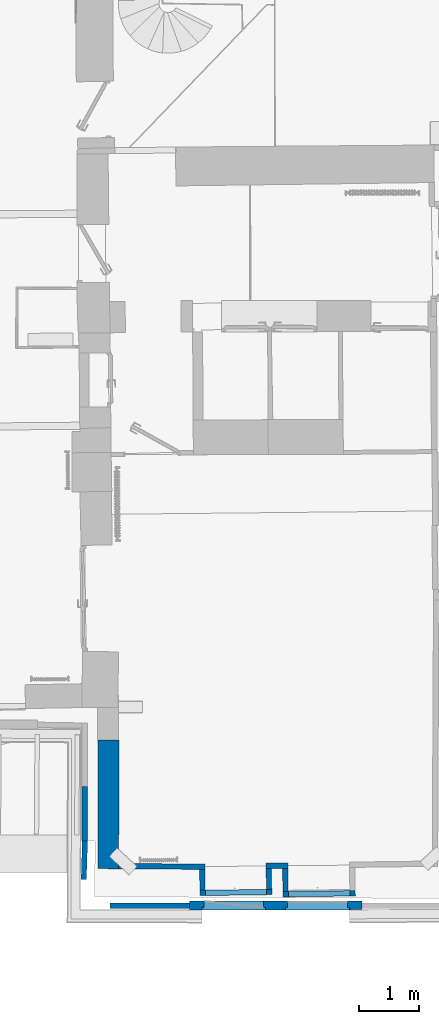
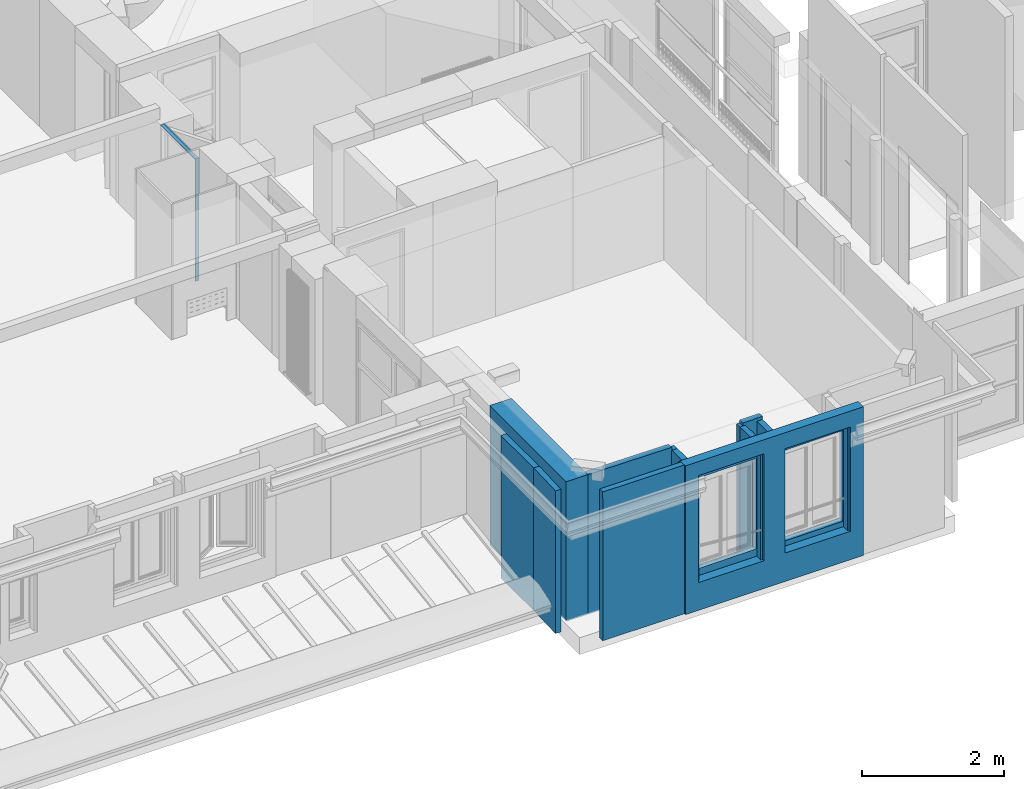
# One storey, part 13 of 72: 13 walls, 5 openings.
"""IFC2X3 building model written with IfcOpenShell, lengths in centimetres."""

from ifc_helpers import new_model, entity, si_unit, converted_unit, direction, frame, origin, origin_with_axes, origin_2d_with_axis, place, context, subcontext, project, spatial, polyline, rectangle, outline, extrude, clip, bounded_halfspace, faceted_brep, shape, material, layer, layer_set, layer_usage, type_object, element, save


model = new_model("IFC2X3")

# Units and contexts
model_context = context("Model", 3, precision=0.0001, world=origin(), true_north=direction((0.225632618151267, 0.974212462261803, 0.0)))
body_context = subcontext(model_context, "Body", "Model", "MODEL_VIEW")
footprint_context = subcontext(model_context, "FootPrint", "Model", "MODEL_VIEW")
profile_context = subcontext(model_context, "Profile", "Model", "MODEL_VIEW")
ifc_project = project(units=[si_unit("LENGTHUNIT", "METRE", prefix="CENTI"), si_unit("AREAUNIT", "SQUARE_METRE", prefix="CENTI"), si_unit("VOLUMEUNIT", "CUBIC_METRE", prefix="CENTI"), converted_unit("PLANEANGLEUNIT", "DEGREE", entity("IfcRatioMeasure", 0.0174532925), si_unit("PLANEANGLEUNIT", "RADIAN"), dimensions=[0, 0, 0, 0, 0, 0, 0])], contexts=[model_context])

# Site, building, storey
site_placement = place(None, origin_with_axes())
site = spatial("IfcSite", under=ifc_project, at=site_placement, Name="Default Site", CompositionType="ELEMENT")
building_placement = place(site_placement, origin_with_axes())
building = spatial("IfcBuilding", under=site, at=building_placement, Name="Default Building", CompositionType="ELEMENT")
storey_placement = place(building_placement, frame((0.0, 0.0, 853.910374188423), z_axis=(0.0, 0.0, 1.0), x_axis=(1.0, 0.0, 0.0)))
storey = spatial("IfcBuildingStorey", under=building, at=storey_placement, Name="Niveau 2", CompositionType="ELEMENT", Elevation=853.910374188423)

# Walls
ifc_material = material(Name="<aucun>")
ifc_layer_1 = layer(ifc_material, 9.0)
ifc_layer_set_1 = layer_set([ifc_layer_1], Name="default")
ifc_layer_usage_1 = layer_usage(ifc_layer_set_1, "AXIS2", "POSITIVE", -4.5)
wall_type_1 = type_object("IfcWallType", Name="default 90", PredefinedType="NOTDEFINED", material=ifc_layer_set_1)
wall_1_placement = place(storey_placement, frame((583.820683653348, -1028.09470280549, -1.95399252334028e-11), z_axis=(0.0, 0.0, 1.0), x_axis=(-0.0132624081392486, 0.999912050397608, 0.0)))
element("IfcWallStandardCase", 1, at=wall_1_placement, inside=storey, type_object=wall_type_1, material=ifc_layer_usage_1, Name="Enveloppe 466763", context=body_context, shape_type="SweptSolid", body=[
    extrude(rectangle(XDim=9.00000000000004, YDim=38.9371059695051, at=origin_2d_with_axis()), frame((28.4685529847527, 0.0, 1.95399252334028e-11), z_axis=(0.0, 0.0, 1.0), x_axis=(0.0, -1.0, 0.0)), (0.0, 0.0, 1.0), 234.999999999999),
])
ifc_layer_usage_2 = layer_usage(ifc_layer_set_1, "AXIS2", "POSITIVE", -4.5)
wall_2_placement = place(storey_placement, frame((555.758841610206, -976.025184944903, 1.4210854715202e-12), z_axis=(0.0, 0.0, 1.0), x_axis=(0.999912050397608, 0.0132624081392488, 0.0)))
element("IfcWallStandardCase", 2, at=wall_2_placement, inside=storey, type_object=wall_type_1, material=ifc_layer_usage_2, Name="Enveloppe 466764", context=body_context, shape_type="Clipping", body=[
    clip(clip(extrude(rectangle(XDim=36.8976143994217, YDim=9.00000000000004, at=origin_2d_with_axis()), frame((13.710964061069, 1.77635683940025e-13, 3.5527136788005e-13), z_axis=(0.0, 0.0, 1.0), x_axis=(1.0, 2.98892854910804e-15, 0.0)), (0.0, 0.0, 1.0), 240.0), bounded_halfspace(frame((32.1597712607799, 4.49999999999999, 234.999999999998), z_axis=(0.0, 0.0, 1.0), x_axis=(0.0, -1.0, 0.0)), True, frame((32.1597712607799, 4.49999999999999, 234.999999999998), z_axis=(0.0, 0.0, 1.0), x_axis=(1.0, 0.0, 0.0)), polyline([(-0.290964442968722, -8.99999999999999), (-0.290964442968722, 0.0), (8.88178419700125e-14, 0.0), (-8.88178419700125e-14, -8.99999999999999), (-0.290964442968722, -8.99999999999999)]))), bounded_halfspace(frame((-4.73784313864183, -4.49999999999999, 234.999999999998), z_axis=(0.0, 0.0, -1.0), x_axis=(1.0, 5.48172618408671e-16, 0.0)), True, frame((-4.73784313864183, -4.49999999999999, 234.999999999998), z_axis=(0.0, 0.0, 1.0), x_axis=(1.0, 0.0, 0.0)), polyline([(-8.88178419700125e-14, 0.0), (4.73784313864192, 1.77635683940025e-13), (4.73784313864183, 8.99999999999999), (-1.77635683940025e-13, 8.99999999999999), (-8.88178419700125e-14, 0.0)]))),
])

# Wall, opening
ifc_layer_usage_3 = layer_usage(ifc_layer_set_1, "AXIS2", "POSITIVE", -4.5)
wall_3_placement = place(storey_placement, frame((583.761002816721, -1023.5950985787, 1.4210854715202e-12), z_axis=(0.0, 0.0, 1.0), x_axis=(0.999912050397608, 0.0132624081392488, 0.0)))
wall_3 = element("IfcWallStandardCase", 3, at=wall_3_placement, inside=storey, type_object=wall_type_1, material=ifc_layer_usage_3, Name="Enveloppe 466655", context=body_context, shape_type="Clipping", body=[
    clip(clip(extrude(rectangle(XDim=121.302750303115, YDim=9.00000000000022, at=origin_2d_with_axis()), frame((56.1513751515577, 0.0, 0.0), z_axis=(0.0, 0.0, 1.0), x_axis=(1.0, -2.46504205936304e-15, 0.0)), (0.0, 0.0, 1.0), 240.000000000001), bounded_halfspace(frame((-4.49999999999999, -4.49999999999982, 234.999999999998), z_axis=(0.0, 0.0, -1.0), x_axis=(1.0, -2.61943244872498e-16, 0.0)), True, frame((-4.49999999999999, -4.49999999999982, 234.999999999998), z_axis=(0.0, 0.0, 1.0), x_axis=(1.0, 0.0, 0.0)), polyline([(0.0, 1.77635683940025e-13), (4.49999999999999, 1.77635683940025e-13), (4.49999999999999, 9.00000000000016), (-1.77635683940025e-13, 9.00000000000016), (0.0, 1.77635683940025e-13)]))), bounded_halfspace(frame((116.802750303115, 4.49999999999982, 234.999999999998), z_axis=(0.0, 0.0, -1.0), x_axis=(-1.0, 3.04773567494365e-14, 0.0)), True, frame((116.802750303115, 4.49999999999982, 234.999999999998), z_axis=(0.0, 0.0, 1.0), x_axis=(1.0, 0.0, 0.0)), polyline([(-4.49999999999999, -8.99999999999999), (2.66453525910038e-13, -8.99999999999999), (0.0, 0.0), (-4.49999999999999, 0.0), (-4.49999999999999, -8.99999999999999)]))),
])
opening_1_placement = place(wall_3_placement, frame((4.54272500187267, -2.27373675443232e-13, 51.9999999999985), z_axis=(0.0, 0.0, 1.0), x_axis=(1.0, -4.20150025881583e-15, 0.0)))
cartesian_point_1 = entity("IfcCartesianPoint", [0.0, 1.77635683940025e-13, 155.6])
cartesian_point_2 = entity("IfcCartesianPoint", [103.260025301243, 4.49999999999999])
element("IfcOpeningElement", 4, at=opening_1_placement, cuts=wall_3, Name="4294966445_11", ObjectType="Opening", shapes=[
    shape(body_context, "Body", "SweptSolid", [extrude(outline(polyline([(0.0, 155.6), (0.0, -1.77635683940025e-13), (103.260025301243, -1.77635683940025e-13), (103.260025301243, 155.6), (0.0, 155.6)])), frame((0.0, 14.5, 0.0), z_axis=(0.0, -1.0, 0.0), x_axis=(1.0, 0.0, 0.0)), (0.0, 0.0, 1.0), 29.0)]),
    shape(profile_context, "Profile", "GeometricCurveSet", [entity("IfcGeometricCurveSet", [entity("IfcPolyline", [cartesian_point_1, entity("IfcCartesianPoint", [0.0, 1.77635683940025e-13, -1.77635683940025e-13]), entity("IfcCartesianPoint", [103.260025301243, 1.77635683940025e-13, -1.77635683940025e-13]), entity("IfcCartesianPoint", [103.260025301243, 1.77635683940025e-13, 155.6]), cartesian_point_1])])]),
    shape(footprint_context, "FootPrint", "GeometricCurveSet", [entity("IfcGeometricCurveSet", [entity("IfcPolyline", [cartesian_point_2, entity("IfcCartesianPoint", [0.0, 4.50000000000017]), entity("IfcCartesianPoint", [0.0, -4.49999999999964]), entity("IfcCartesianPoint", [103.260025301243, -4.49999999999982]), cartesian_point_2])])]),
])

# Walls
ifc_layer_usage_4 = layer_usage(ifc_layer_set_1, "AXIS2", "POSITIVE", -4.5)
wall_4_placement = place(storey_placement, frame((247.151456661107, -934.52190212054, -1.95399252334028e-11), z_axis=(0.0, 0.0, 1.0), x_axis=(-0.00483921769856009, 0.999988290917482, 0.0)))
element("IfcWallStandardCase", 5, at=wall_4_placement, inside=storey, type_object=wall_type_1, material=ifc_layer_usage_4, Name="Enveloppe 462048", context=body_context, shape_type="SweptSolid", body=[
    extrude(outline(polyline([(91.8481234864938, 4.49999999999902), (0.00368728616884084, 4.50178599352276), (-0.306669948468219, -4.49315572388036), (91.8481234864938, -4.5000000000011), (91.8481234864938, 4.49999999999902)])), frame((0.0, 0.0, 2.00728322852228e-11), z_axis=(0.0, 0.0, 1.0), x_axis=(1.0, 0.0, 0.0)), (0.0, 0.0, 1.0), 244.999999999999),
])
ifc_layer_usage_5 = layer_usage(ifc_layer_set_1, "AXIS2", "POSITIVE", -4.5)
wall_5_placement = place(storey_placement, frame((245.240282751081, -998.993087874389, -1.95399252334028e-11), z_axis=(0.0, 0.0, 1.0), x_axis=(0.0296472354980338, 0.999560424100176, 0.0)))
element("IfcWallStandardCase", 6, at=wall_5_placement, inside=storey, type_object=wall_type_1, material=ifc_layer_usage_5, Name="Enveloppe 462083", context=body_context, shape_type="SweptSolid", body=[
    extrude(rectangle(XDim=64.3479611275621, YDim=8.99999999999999, at=origin_2d_with_axis()), frame((32.1739805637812, 3.10862446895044e-13, 2.00728322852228e-11), z_axis=(0.0, 0.0, 1.0), x_axis=(1.0, 9.15240105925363e-15, 0.0)), (0.0, 0.0, 1.0), 244.999999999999),
])
ifc_layer_usage_6 = layer_usage(ifc_layer_set_1, "AXIS2", "POSITIVE", -4.5)
wall_6_placement = place(storey_placement, frame((289.501451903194, -1043.06086177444, -1.95399252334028e-11), z_axis=(0.0, 0.0, 1.0), x_axis=(0.99999978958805, 0.000648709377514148, 0.0)))
element("IfcWallStandardCase", 7, at=wall_6_placement, inside=storey, type_object=wall_type_1, material=ifc_layer_usage_6, Name="Enveloppe 462309", context=body_context, shape_type="Clipping", body=[
    clip(extrude(rectangle(XDim=8.99999999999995, YDim=132.764789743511, at=origin_2d_with_axis()), frame((66.3823949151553, 3.3457461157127e-05, 1.98951966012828e-11), z_axis=(0.0, 0.0, 1.0), x_axis=(-9.86873343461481e-15, 1.0, 0.0)), (0.0, 0.0, 1.0), 255.508614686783), bounded_halfspace(frame((4.44089209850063e-14, -4.49999999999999, 245.000000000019), z_axis=(0.0, 0.0, 1.0), x_axis=(-1.0842021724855e-19, 1.0, 0.0)), True, frame((4.44089209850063e-14, -4.49999999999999, 245.000000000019), z_axis=(0.0, 0.0, 1.0), x_axis=(1.0, 0.0, 0.0)), polyline([(0.0, 0.0), (0.00315086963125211, 8.99999999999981), (0.103150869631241, 8.99999999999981), (0.103150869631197, 0.0), (0.0, 0.0)]))),
])

# Wall, opening
ifc_layer_usage_7 = layer_usage(ifc_layer_set_1, "AXIS2", "POSITIVE", -4.5)
wall_7_placement = place(storey_placement, frame((429.795336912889, -1021.63182955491, 1.4210854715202e-12), z_axis=(0.0, 0.0, 1.0), x_axis=(0.999912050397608, 0.0132624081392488, 0.0)))
wall_7 = element("IfcWallStandardCase", 8, at=wall_7_placement, inside=storey, type_object=wall_type_1, material=ifc_layer_usage_7, Name="Enveloppe 467083", context=body_context, shape_type="Clipping", body=[
    clip(clip(clip(clip(clip(clip(extrude(rectangle(XDim=130.819437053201, YDim=8.99999999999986, at=origin_2d_with_axis()), frame((65.4097185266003, -5.32907051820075e-13, 0.0), z_axis=(0.0, 0.0, 1.0), x_axis=(1.0, -5.5875443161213e-15, 0.0)), (0.0, 0.0, 1.0), 240.000000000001), bounded_halfspace(frame((0.0, 4.49999999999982, 234.999999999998), z_axis=(0.0, 0.0, 1.0), x_axis=(1.0, 1.36696209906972e-15, 0.0)), True, frame((0.0, 4.49999999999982, 234.999999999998), z_axis=(0.0, 0.0, 1.0), x_axis=(1.0, 0.0, 0.0)), polyline([(0.0, -8.99999999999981), (0.0, -1.77635683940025e-13), (10.2363472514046, 1.77635683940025e-13), (10.2363472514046, -8.99999999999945), (0.0, -8.99999999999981)]))), bounded_halfspace(frame((119.370194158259, 3.64508552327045, 234.007564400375), z_axis=(0.0, 0.0, -1.0), x_axis=(0.0889784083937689, 0.996033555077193, 0.0)), True, frame((119.370194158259, 3.64508552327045, 234.007564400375), z_axis=(0.0, 0.0, 1.0), x_axis=(1.0, 0.0, 0.0)), polyline([(-2.08729956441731, 0.18125199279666), (8.88178419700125e-14, 0.0), (0.0145450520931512, 0.162818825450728), (-2.08729956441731, 0.18125199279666)]))), bounded_halfspace(frame((122.519967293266, 3.7804084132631, 234.007564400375), z_axis=(0.0, 0.0, -1.0), x_axis=(-0.999961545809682, 0.00876965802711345, 0.0)), True, frame((122.519967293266, 3.7804084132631, 234.007564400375), z_axis=(0.0, 0.0, 1.0), x_axis=(1.0, 0.0, 0.0)), polyline([(-3.14977313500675, -0.135322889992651), (3.08256948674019, -0.676512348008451), (3.13892442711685, -0.027528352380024), (-3.13522808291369, 0.0274959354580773), (-3.14977313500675, -0.135322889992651)]))), bounded_halfspace(frame((119.021062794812, -0.2631272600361, 234.007564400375), z_axis=(0.0, 0.0, -1.0), x_axis=(0.0889784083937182, 0.996033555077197, 0.0)), True, frame((119.021062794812, -0.2631272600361, 234.007564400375), z_axis=(0.0, 0.0, 1.0), x_axis=(1.0, 0.0, 0.0)), polyline([(-6.16503975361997, 0.0589188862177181), (8.88178419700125e-14, 0.0), (0.349131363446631, 3.90821278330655), (-1.73816820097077, 4.08946477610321), (-6.12935414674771, 4.12797545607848), (-6.16503975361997, 0.0589188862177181)]))), bounded_halfspace(frame((113.504657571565, 3.92319714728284, 234.007564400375), z_axis=(0.0, 0.0, -1.0), x_axis=(-0.0761609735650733, -0.997095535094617, 0.0)), True, frame((113.504657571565, 3.92319714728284, 234.007564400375), z_axis=(0.0, 0.0, 1.0), x_axis=(1.0, 0.0, 0.0)), polyline([(-0.00486419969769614, -0.0636818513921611), (3.77823702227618, -0.0968596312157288), (3.13162043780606, -0.0407102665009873), (0.0, 0.0), (-0.00486419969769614, -0.0636818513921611)]))), bounded_halfspace(frame((130.819437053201, 4.4999999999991, 234.999999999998), z_axis=(0.0, 0.0, -1.0), x_axis=(-1.0, 0.0, 0.0)), True, frame((130.819437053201, 4.4999999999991, 234.999999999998), z_axis=(0.0, 0.0, 1.0), x_axis=(1.0, 0.0, 0.0)), polyline([(-4.49999999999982, -8.99999999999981), (0.0, -8.99999999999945), (0.0, 0.0), (-4.49999999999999, 0.0), (-4.49999999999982, -8.99999999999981)]))),
])
opening_2_placement = place(wall_7_placement, frame((19.2363472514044, 0.0, 51.9999999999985), z_axis=(0.0, 0.0, 1.0), x_axis=(1.0, -2.96464242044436e-15, 0.0)))
cartesian_point_3 = entity("IfcCartesianPoint", [0.0, 0.0, 155.600902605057])
cartesian_point_4 = entity("IfcCartesianPoint", [102.583089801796, 4.49999999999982])
element("IfcOpeningElement", 9, at=opening_2_placement, cuts=wall_7, Name="4294966440_11", ObjectType="Opening", shapes=[
    shape(body_context, "Body", "SweptSolid", [extrude(outline(polyline([(8.88178419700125e-14, 155.600902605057), (8.88178419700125e-14, -1.77635683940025e-13), (102.583089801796, -1.77635683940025e-13), (102.583089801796, 155.600902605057), (8.88178419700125e-14, 155.600902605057)])), frame((0.0, 14.5, 0.0), z_axis=(0.0, -1.0, 0.0), x_axis=(1.0, 0.0, 0.0)), (0.0, 0.0, 1.0), 29.0)]),
    shape(profile_context, "Profile", "GeometricCurveSet", [entity("IfcGeometricCurveSet", [entity("IfcPolyline", [cartesian_point_3, entity("IfcCartesianPoint", [0.0, 0.0, -1.77635683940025e-13]), entity("IfcCartesianPoint", [102.583089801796, -1.77635683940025e-13, -1.77635683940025e-13]), entity("IfcCartesianPoint", [102.583089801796, -1.77635683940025e-13, 155.600902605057]), cartesian_point_3])])]),
    shape(footprint_context, "FootPrint", "GeometricCurveSet", [entity("IfcGeometricCurveSet", [entity("IfcPolyline", [cartesian_point_4, entity("IfcCartesianPoint", [8.88178419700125e-14, 4.49999999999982]), entity("IfcCartesianPoint", [8.88178419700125e-14, -4.50000000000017]), entity("IfcCartesianPoint", [102.583089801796, -4.49999999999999]), cartesian_point_4])])]),
])

# Walls
ifc_layer_usage_8 = layer_usage(ifc_layer_set_1, "AXIS2", "POSITIVE", -4.5)
wall_8_placement = place(storey_placement, frame((444.470707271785, -1016.93678587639, -1.95399252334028e-11), z_axis=(0.0, 0.0, 1.0), x_axis=(-0.0132624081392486, 0.999912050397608, 0.0)))
element("IfcWallStandardCase", 10, at=wall_8_placement, inside=storey, type_object=wall_type_1, material=ifc_layer_usage_8, Name="Enveloppe 467191", context=body_context, shape_type="SweptSolid", body=[
    extrude(outline(polyline([(35.045232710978, 4.4999999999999), (0.0, 4.49999999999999), (0.0, -4.50000000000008), (34.8643733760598, -4.50000000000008), (35.045232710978, 4.4999999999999)])), frame((0.0, 0.0, 1.97175609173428e-11), z_axis=(0.0, 0.0, 1.0), x_axis=(1.0, 0.0, 0.0)), (0.0, 0.0, 1.0), 234.999999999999),
])
ifc_layer_usage_9 = layer_usage(ifc_layer_set_1, "AXIS2", "POSITIVE", -4.5)
wall_9_placement = place(storey_placement, frame((556.043983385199, -1015.456925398, -1.95399252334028e-11), z_axis=(0.0, 0.0, 1.0), x_axis=(-0.0132624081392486, 0.999912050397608, 0.0)))
element("IfcWallStandardCase", 11, at=wall_9_placement, inside=storey, type_object=wall_type_1, material=ifc_layer_usage_9, Name="Enveloppe 467505", context=body_context, shape_type="SweptSolid", body=[
    extrude(rectangle(XDim=9.00000000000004, YDim=34.932054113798, at=origin_2d_with_axis()), frame((17.4660270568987, -1.77635683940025e-13, 1.95399252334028e-11), z_axis=(0.0, 0.0, 1.0), x_axis=(-1.97342142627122e-14, -1.0, 0.0)), (0.0, 0.0, 1.0), 234.999999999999),
])
ifc_layer_usage_10 = layer_usage(ifc_layer_set_1, "AXIS2", "POSITIVE", -4.5)
wall_10_placement = place(storey_placement, frame((439.58995379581, -977.454782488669, 1.4210854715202e-12), z_axis=(0.0, 0.0, 1.0), x_axis=(-0.999976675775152, 0.00682992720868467, 0.0)))
element("IfcWallStandardCase", 12, at=wall_10_placement, inside=storey, type_object=wall_type_1, material=ifc_layer_usage_10, Name="Enveloppe 150750", context=body_context, shape_type="Clipping", body=[
    clip(extrude(outline(polyline([(135.790984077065, 4.49999999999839), (-8.94891555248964, 4.50000000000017), (-8.76805621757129, -4.49999999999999), (135.831808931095, -4.50000000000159), (135.790984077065, 4.49999999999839)])), frame((0.0, 0.0, -8.88178419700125e-13), z_axis=(0.0, 0.0, 1.0), x_axis=(1.0, 0.0, 0.0)), (0.0, 0.0, 1.0), 240.000000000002), bounded_halfspace(frame((-8.76805621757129, -4.49999999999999, 234.999999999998), z_axis=(0.0, 0.0, -1.0), x_axis=(1.0, 3.23699400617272e-15, 0.0)), True, frame((-8.76805621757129, -4.49999999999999, 234.999999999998), z_axis=(0.0, 0.0, 1.0), x_axis=(1.0, 0.0, 0.0)), polyline([(-0.180859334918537, 9.00000000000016), (-8.88178419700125e-14, -1.77635683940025e-13), (8.76805621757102, 1.77635683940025e-13), (8.76805621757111, 8.99999999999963), (-0.180859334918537, 9.00000000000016)]))),
])

# Wall, opening
ifc_layer_2 = layer(ifc_material, 6.0)
ifc_layer_set_2 = layer_set([ifc_layer_2], Name="default")
ifc_layer_usage_11 = layer_usage(ifc_layer_set_2, "AXIS2", "POSITIVE", -3.0)
wall_type_2 = type_object("IfcWallType", Name="default 60", PredefinedType="NOTDEFINED", material=ifc_layer_set_2)
wall_11_placement = place(storey_placement, frame((236.869598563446, 2.04871881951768, 1.4210854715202e-12), z_axis=(0.0, 0.0, 1.0), x_axis=(1.27832880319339e-05, 0.999999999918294, 0.0)))
wall_11 = element("IfcWallStandardCase", 13, at=wall_11_placement, inside=storey, type_object=wall_type_2, material=ifc_layer_usage_11, Name="Enveloppe 158717", context=body_context, shape_type="SweptSolid", body=[
    extrude(rectangle(XDim=97.7244246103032, YDim=5.99999999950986, at=origin_2d_with_axis()), frame((48.9451980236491, 0.000624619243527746, 0.0), z_axis=(0.0, 0.0, 1.0), x_axis=(0.999999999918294, 1.27832880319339e-05, 0.0)), (0.0, 0.0, 1.0), 209.999999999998),
])
opening_3_placement = place(wall_11_placement, frame((0.578299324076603, -5.6843418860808e-14, -1.24344978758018e-12), z_axis=(0.0, 0.0, 1.0), x_axis=(-1.0, -8.34835672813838e-18, 0.0)))
cartesian_point_5 = entity("IfcCartesianPoint", [-1.2490009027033e-14, -4.44089209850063e-14, 208.5])
cartesian_point_6 = entity("IfcCartesianPoint", [-97.2291493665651, -3.00000000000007])
element("IfcOpeningElement", 14, at=opening_3_placement, cuts=wall_11, Name="4294966374_11", ObjectType="Opening", shapes=[
    shape(body_context, "Body", "SweptSolid", [extrude(outline(polyline([(1.2490009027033e-14, 208.5), (0.0, -1.77635683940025e-13), (97.2291493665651, -1.77635683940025e-13), (97.2291493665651, 208.5), (1.2490009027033e-14, 208.5)])), frame((0.0, -13.0, 0.0), z_axis=(0.0, 1.0, 0.0), x_axis=(-1.0, 0.0, 0.0)), (0.0, 0.0, 1.0), 26.0)]),
    shape(profile_context, "Profile", "GeometricCurveSet", [entity("IfcGeometricCurveSet", [entity("IfcPolyline", [cartesian_point_5, entity("IfcCartesianPoint", [3.46944695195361e-16, -4.44089209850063e-14, -1.77635683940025e-13]), entity("IfcCartesianPoint", [-97.2291493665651, -8.88178419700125e-14, -1.77635683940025e-13]), entity("IfcCartesianPoint", [-97.2291493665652, -8.88178419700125e-14, 208.5]), cartesian_point_5])])]),
    shape(footprint_context, "FootPrint", "GeometricCurveSet", [entity("IfcGeometricCurveSet", [entity("IfcPolyline", [cartesian_point_6, entity("IfcCartesianPoint", [0.0, -3.00000000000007]), entity("IfcCartesianPoint", [3.46944695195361e-16, 2.99999999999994]), entity("IfcCartesianPoint", [-97.2291493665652, 2.99999999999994]), cartesian_point_6])])]),
])

# Wall, openings
ifc_layer_3 = layer(ifc_material, 15.0)
ifc_layer_set_3 = layer_set([ifc_layer_3], Name="default")
ifc_layer_usage_12 = layer_usage(ifc_layer_set_3, "AXIS2", "POSITIVE", -7.5)
wall_type_3 = type_object("IfcWallType", Name="default 150", PredefinedType="NOTDEFINED", material=ifc_layer_set_3)
wall_12_placement = place(storey_placement, frame((422.359250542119, -1042.7401904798, -1.95399252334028e-11), z_axis=(0.0, 0.0, 1.0), x_axis=(0.999997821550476, 0.00208731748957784, 0.0)))
wall_12 = element("IfcWallStandardCase", 15, at=wall_12_placement, inside=storey, type_object=wall_type_3, material=ifc_layer_usage_12, Name="Enveloppe 460749", context=body_context, shape_type="SweptSolid", body=[
    extrude(outline(polyline([(-0.0999997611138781, -4.73428129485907), (8.88178419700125e-14, -4.73449002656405), (-0.00129195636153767, -7.49999730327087), (289.377884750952, -7.49999974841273), (289.378005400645, -5.15073581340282), (289.465057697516, -5.15091751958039), (289.47800517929, 3.84907316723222), (289.378005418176, 3.84928189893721), (289.37800528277, 7.49999999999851), (1.77635683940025e-13, 7.49999999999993), (0.0, 4.26551928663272), (-0.0870522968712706, 4.2657009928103), (-0.0999997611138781, -4.73428129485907)])), frame((0.0, 0.0, 1.98951966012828e-11), z_axis=(0.0, 0.0, 1.0), x_axis=(1.0, 0.0, 0.0)), (0.0, 0.0, 1.0), 255.508614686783),
])
opening_4_placement = place(wall_12_placement, frame((161.544616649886, -6.82121026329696e-13, 48.9244414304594), z_axis=(0.0, 0.0, 1.0), x_axis=(-1.0, 4.02846159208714e-15, 0.0)))
cartesian_point_7 = entity("IfcCartesianPoint", [5.32907051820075e-13, 1.77635683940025e-13, 179.234436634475])
cartesian_point_8 = entity("IfcCartesianPoint", [-106.870660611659, -7.49999999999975])
element("IfcOpeningElement", 16, at=opening_4_placement, cuts=wall_12, Name="Baie 750772", ObjectType="Opening", shapes=[
    shape(body_context, "Body", "Brep", [faceted_brep([(-3.00000573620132, -27.5000192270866, 179.23439061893), (-103.870644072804, -27.5000192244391, 179.23439061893), (-103.870644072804, -27.5000192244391, -1.87133453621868e-05), (-3.00000573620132, -27.5000192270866, -1.87133453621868e-05), (1.81339281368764e-06, 27.4999612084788, -1.87133453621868e-05), (-106.870643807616, 27.4999612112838, -1.87133453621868e-05), (-106.870643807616, 27.4999612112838, 179.23439061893), (1.81339281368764e-06, 27.4999612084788, 179.23439061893), (-3.00000573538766, 3.49999489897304, -1.87133453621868e-05), (-3.00000573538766, 3.49999489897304, 179.23439061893), (-3.00000566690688, 3.49999489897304, 179.23439061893), (-3.00000566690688, 3.49999489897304, -1.87133453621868e-05), (2.1916632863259e-05, 3.49999489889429, -1.87133453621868e-05), (2.1916632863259e-05, 3.49999489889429, 179.23439061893), (2.19166328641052e-05, 3.50002713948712, 179.23439061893), (2.19166328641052e-05, 3.50002713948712, -1.87133453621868e-05), (2.19172627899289e-05, 27.4999612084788, -1.87133453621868e-05), (2.19172627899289e-05, 27.4999612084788, 179.23439061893), (-103.870644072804, -27.5000414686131, -1.87133453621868e-05), (-103.87064400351, 3.49997265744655, -1.87133453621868e-05), (-106.870671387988, 3.50003578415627, -1.87133453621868e-05), (-106.870643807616, 27.4999697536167, -1.87133453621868e-05), (-103.870644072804, -27.5000414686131, 179.23439061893), (-103.870644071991, 3.49997265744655, 179.23439061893), (-103.870644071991, 3.49997265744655, -1.87133453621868e-05), (-103.87064400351, 3.49997265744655, 179.23439061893), (-106.870671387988, 3.49997265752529, 179.23439061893), (-106.870671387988, 3.49997265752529, -1.87133453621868e-05), (-106.870671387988, 3.50003578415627, 179.23439061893), (-106.870671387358, 27.4999697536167, 179.23439061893), (-106.870671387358, 27.4999697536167, -1.87133453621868e-05), (-106.870643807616, 27.4999697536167, 179.23439061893)], [[[0, 1, 2, 3]], [[4, 5, 6, 7]], [[0, 3, 8, 9]], [[10, 11, 12, 13]], [[14, 15, 16, 17]], [[3, 18, 19, 20, 21, 4, 15, 11]], [[18, 22, 23, 24]], [[19, 25, 26, 27]], [[20, 28, 29, 30]], [[10, 14, 7, 31, 28, 25, 22, 0]]])]),
    shape(profile_context, "Profile", "GeometricCurveSet", [entity("IfcGeometricCurveSet", [entity("IfcPolyline", [cartesian_point_7, entity("IfcCartesianPoint", [5.32907051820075e-13, 1.77635683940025e-13, -1.77635683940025e-13]), entity("IfcCartesianPoint", [-106.870660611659, 1.77635683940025e-13, -1.77635683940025e-13]), entity("IfcCartesianPoint", [-106.870660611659, 1.77635683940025e-13, 179.234436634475]), cartesian_point_7])])]),
    shape(footprint_context, "FootPrint", "GeometricCurveSet", [entity("IfcGeometricCurveSet", [entity("IfcPolyline", [cartesian_point_8, entity("IfcCartesianPoint", [5.32907051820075e-13, -7.49999999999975]), entity("IfcCartesianPoint", [4.44089209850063e-13, 7.50000000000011]), entity("IfcCartesianPoint", [-106.870660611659, 7.50000000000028]), cartesian_point_8])])]),
])
opening_5_placement = place(wall_12_placement, frame((21.4185857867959, -2.27373675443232e-13, 47.705615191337), z_axis=(0.0, 0.0, 1.0), x_axis=(-1.0, 4.02846159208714e-15, 0.0)))
cartesian_point_9 = entity("IfcCartesianPoint", [5.32907051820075e-13, 1.77635683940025e-13, 183.752038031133])
cartesian_point_10 = entity("IfcCartesianPoint", [-106.256097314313, -7.49999999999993])
element("IfcOpeningElement", 17, at=opening_5_placement, cuts=wall_12, Name="Baie 750770", ObjectType="Opening", shapes=[
    shape(body_context, "Body", "Brep", [faceted_brep([(-2.99997983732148, -27.5000148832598, 183.752071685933), (-103.256116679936, -27.5000148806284, 183.752071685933), (-103.256116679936, -27.5000148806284, 1.17494098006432e-05), (-2.99997983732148, -27.5000148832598, 1.17494098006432e-05), (-1.9971339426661e-05, 27.4999656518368, 1.17494098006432e-05), (-106.256116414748, 27.4999656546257, 1.17494098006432e-05), (-106.256116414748, 27.4999656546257, 183.752071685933), (-1.9971339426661e-05, 27.4999656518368, 183.752071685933), (-2.99997983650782, 3.49999924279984, 1.17494098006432e-05), (-2.99997983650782, 3.49999924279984, 183.752071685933), (-2.99997976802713, 3.49999924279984, 183.752071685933), (-2.99997976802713, 3.49999924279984, 1.17494098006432e-05), (1.31900711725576e-07, 3.4999992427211, 1.17494098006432e-05), (1.31900711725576e-07, 3.4999992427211, 183.752071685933), (1.31900712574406e-07, 3.50003158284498, 183.752071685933), (1.31900801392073e-07, 3.50003158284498, 1.17494098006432e-05), (1.32530727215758e-07, 27.4999656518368, 1.17494098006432e-05), (1.32530638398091e-07, 27.4999656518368, 183.752071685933), (-103.256116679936, -27.4999846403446, 1.17494098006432e-05), (-103.256116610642, 3.50002948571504, 1.17494098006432e-05), (-106.25609651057, 3.49999714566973, 1.17494098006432e-05), (-106.256116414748, 27.500026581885, 1.17494098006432e-05), (1.31900712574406e-07, 3.50003158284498, 1.17494098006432e-05), (-103.256116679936, -27.4999846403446, 183.752071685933), (-103.256116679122, 3.50002948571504, 183.752071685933), (-103.256116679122, 3.50002948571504, 1.17494098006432e-05), (-103.256116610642, 3.50002948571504, 183.752071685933), (-106.25609651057, 3.50002948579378, 183.752071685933), (-106.25609651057, 3.50002948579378, 1.17494098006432e-05), (-106.25609651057, 3.49999714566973, 183.752071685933), (-106.25609650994, 27.500026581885, 183.752071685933), (-106.25609650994, 27.500026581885, 1.17494098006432e-05), (-106.256116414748, 27.500026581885, 183.752071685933)], [[[0, 1, 2, 3]], [[4, 5, 6, 7]], [[0, 3, 8, 9]], [[10, 11, 12, 13]], [[14, 15, 16, 17]], [[3, 18, 19, 20, 21, 4, 22, 11]], [[18, 23, 24, 25]], [[19, 26, 27, 28]], [[20, 29, 30, 31]], [[10, 14, 7, 32, 29, 26, 23, 0]]])]),
    shape(profile_context, "Profile", "GeometricCurveSet", [entity("IfcGeometricCurveSet", [entity("IfcPolyline", [cartesian_point_9, entity("IfcCartesianPoint", [5.32907051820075e-13, 1.77635683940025e-13, -1.77635683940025e-13]), entity("IfcCartesianPoint", [-106.256097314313, 1.77635683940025e-13, -1.77635683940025e-13]), entity("IfcCartesianPoint", [-106.256097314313, 1.77635683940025e-13, 183.752038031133]), cartesian_point_9])])]),
    shape(footprint_context, "FootPrint", "GeometricCurveSet", [entity("IfcGeometricCurveSet", [entity("IfcPolyline", [cartesian_point_10, entity("IfcCartesianPoint", [5.32907051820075e-13, -7.49999999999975]), entity("IfcCartesianPoint", [5.32907051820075e-13, 7.50000000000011]), entity("IfcCartesianPoint", [-106.256097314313, 7.50000000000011]), cartesian_point_10])])]),
])

# Wall
ifc_layer_4 = layer(ifc_material, 35.0)
ifc_layer_set_4 = layer_set([ifc_layer_4], Name="default")
ifc_layer_usage_13 = layer_usage(ifc_layer_set_4, "AXIS2", "POSITIVE", -17.5)
wall_type_4 = type_object("IfcWallType", Name="default 350", PredefinedType="NOTDEFINED", material=ifc_layer_set_4)
wall_13_placement = place(storey_placement, frame((286.292093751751, -971.987022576, 1.4210854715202e-12), z_axis=(0.0, 0.0, 1.0), x_axis=(0.00229391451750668, 0.999997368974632, 0.0)))
element("IfcWallStandardCase", 18, at=wall_13_placement, inside=storey, type_object=wall_type_4, material=ifc_layer_usage_13, Name="Enveloppe 150780", context=body_context, shape_type="SweptSolid", body=[
    extrude(outline(polyline([(-8.84132927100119, 17.5), (-9.00009259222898, -17.5), (206.975826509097, -17.4999999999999), (207.089988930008, 17.5000000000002), (-8.84132927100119, 17.5)])), frame((0.0, 0.0, -3.5527136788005e-13), z_axis=(0.0, 0.0, 1.0), x_axis=(1.0, 0.0, 0.0)), (0.0, 0.0, 1.0), 240.000000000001),
])

save(model, "model.ifc")
